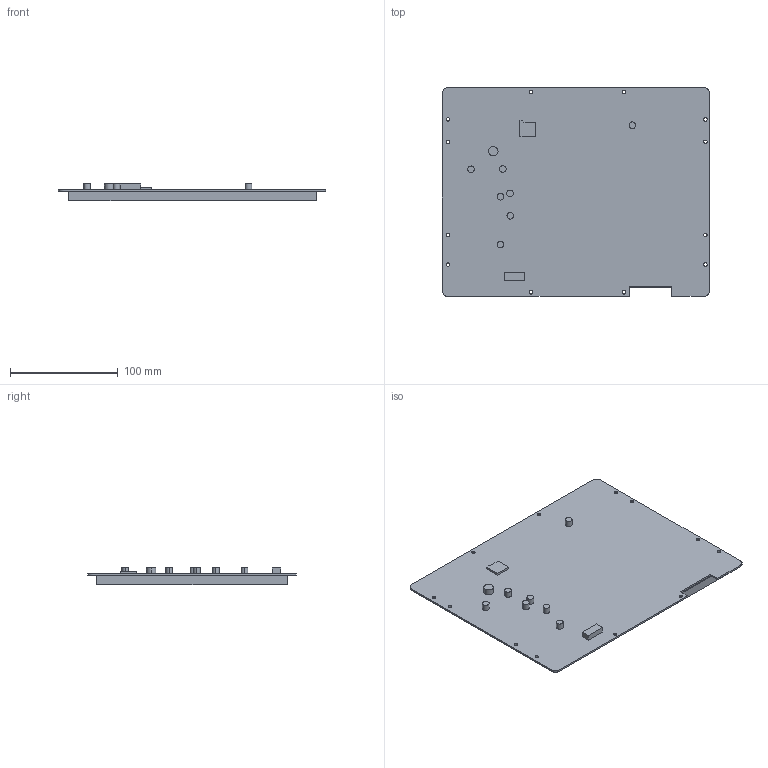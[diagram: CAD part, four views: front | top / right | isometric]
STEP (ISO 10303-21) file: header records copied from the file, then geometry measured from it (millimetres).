
FILE_DESCRIPTION((''),'2;1');
FILE_NAME('DMG10768T104-09WN-WTR','2021-10-21T',('Administrator'),(''),'PRO/ENGINEER BY PARAMETRIC TECHNOLOGY CORPORATION, 2008380','PRO/ENGINEER BY PARAMETRIC TECHNOLOGY CORPORATION, 2008380','');
FILE_SCHEMA(('CONFIG_CONTROL_DESIGN'));
Products named in the file (1): DMG10768T104-09WN-WTR
Bounding box: 247.78 x 193.67 x 15.9 mm (x, y, z)
Volume: 410283.5 mm3; surface area: 105242.3 mm2
Topology: 1 solids, 1 shells, 85 faces, 19205 edges, 32168 vertices
Faces by surface type: cylinder 44, plane 41
Entity records: 103620 total; most frequent: DIRECTION 25430, CARTESIAN_POINT 19433, TRIMMED_CURVE 18991, VECTOR 13152, LINE 13152, AXIS2_PLACEMENT_3D 6139, CIRCLE 6053, ORIENTED_EDGE 428
